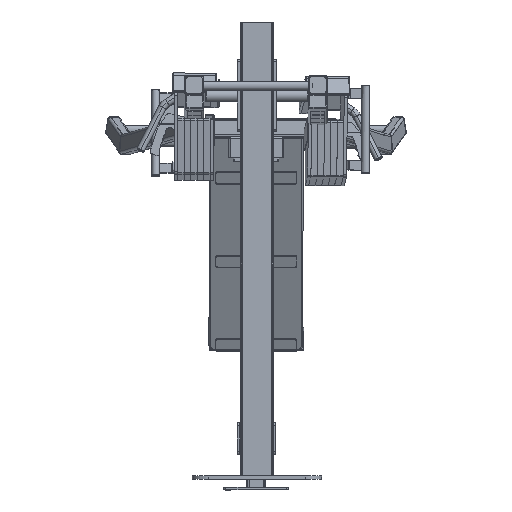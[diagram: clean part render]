
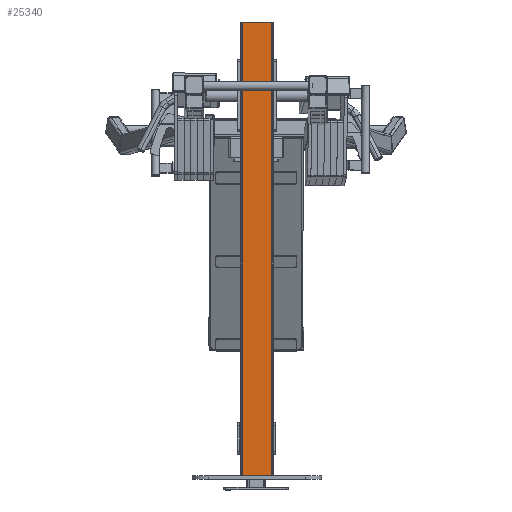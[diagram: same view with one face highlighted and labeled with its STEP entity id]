
A CAD part, top view. The second image highlights one B-rep face of the part: STEP entity #25340.
In plain terms, the highlighted planar face has unit normal (0, 0, 1).
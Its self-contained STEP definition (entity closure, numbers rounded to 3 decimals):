
#1285=PLANE('',#27774);
#2518=FACE_OUTER_BOUND('',#4103,.T.);
#4103=EDGE_LOOP('',(#21503,#21504,#21505,#21506));
#6198=LINE('',#43024,#8488);
#6201=LINE('',#43039,#8491);
#6206=LINE('',#43054,#8496);
#6234=LINE('',#43148,#8524);
#8488=VECTOR('',#33845,10.);
#8491=VECTOR('',#33858,10.);
#8496=VECTOR('',#33873,10.);
#8524=VECTOR('',#33977,10.);
#11963=VERTEX_POINT('',#43018);
#11965=VERTEX_POINT('',#43022);
#11970=VERTEX_POINT('',#43035);
#11972=VERTEX_POINT('',#43038);
#15202=EDGE_CURVE('',#11963,#11965,#6198,.T.);
#15208=EDGE_CURVE('',#11970,#11972,#6201,.T.);
#15216=EDGE_CURVE('',#11963,#11970,#6206,.T.);
#15264=EDGE_CURVE('',#11972,#11965,#6234,.T.);
#21503=ORIENTED_EDGE('',*,*,#15216,.F.);
#21504=ORIENTED_EDGE('',*,*,#15202,.T.);
#21505=ORIENTED_EDGE('',*,*,#15264,.F.);
#21506=ORIENTED_EDGE('',*,*,#15208,.F.);
#25340=ADVANCED_FACE('',(#2518),#1285,.T.);
#27774=AXIS2_PLACEMENT_3D('',#43147,#33975,#33976);
#33845=DIRECTION('',(0.,-1.,0.));
#33858=DIRECTION('',(0.,-1.,0.));
#33873=DIRECTION('',(1.,0.,0.));
#33975=DIRECTION('center_axis',(0.,0.,
1.));
#33976=DIRECTION('ref_axis',(1.,0.,0.));
#33977=DIRECTION('',(-1.,0.,0.));
#43018=CARTESIAN_POINT('',(-41.982,1281.274,838.));
#43022=CARTESIAN_POINT('',(-41.982,-118.726,838.));
#43024=CARTESIAN_POINT('',(-41.982,1281.274,838.));
#43035=CARTESIAN_POINT('',(46.018,1281.274,838.));
#43038=CARTESIAN_POINT('',(46.018,-118.726,838.));
#43039=CARTESIAN_POINT('',(46.018,1281.274,838.));
#43054=CARTESIAN_POINT('',(42.018,1281.274,838.));
#43147=CARTESIAN_POINT('Origin',(-112.382,-193.126,838.));
#43148=CARTESIAN_POINT('',(-41.982,-118.726,838.));
